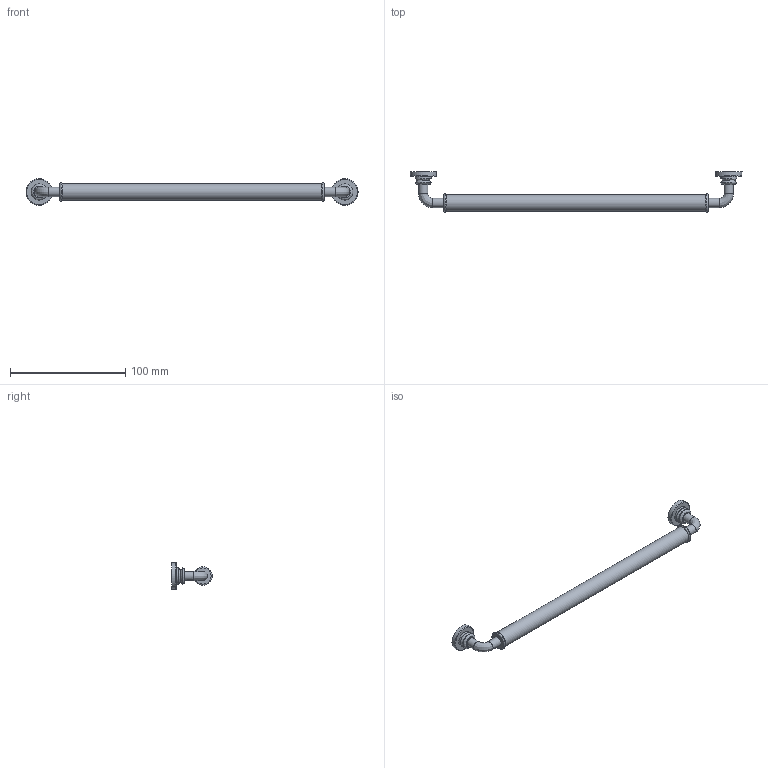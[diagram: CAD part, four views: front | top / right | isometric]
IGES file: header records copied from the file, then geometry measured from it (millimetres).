
Start section: Data from Parasolid IGES Translator 15.0.47, Copyright(c) 2006 Siemens P LM Software. All Rights Reserved.
Global section: file name: 9132273.igs; native system:  By UGS Corp.; preprocessor: XPlus GENERIC/IGES 3.0; author: Noname; organization: Noname; date: 20140122.102116; units: millimetre
Bounding box: 288 x 35 x 23 mm (x, y, z)
Surface area: 14923.6 mm2 (no closed solid volume)
Topology: 0 solids, 0 shells, 50 faces, 228 edges, 188 vertices
Faces by surface type: revolution 42, extrusion 8
